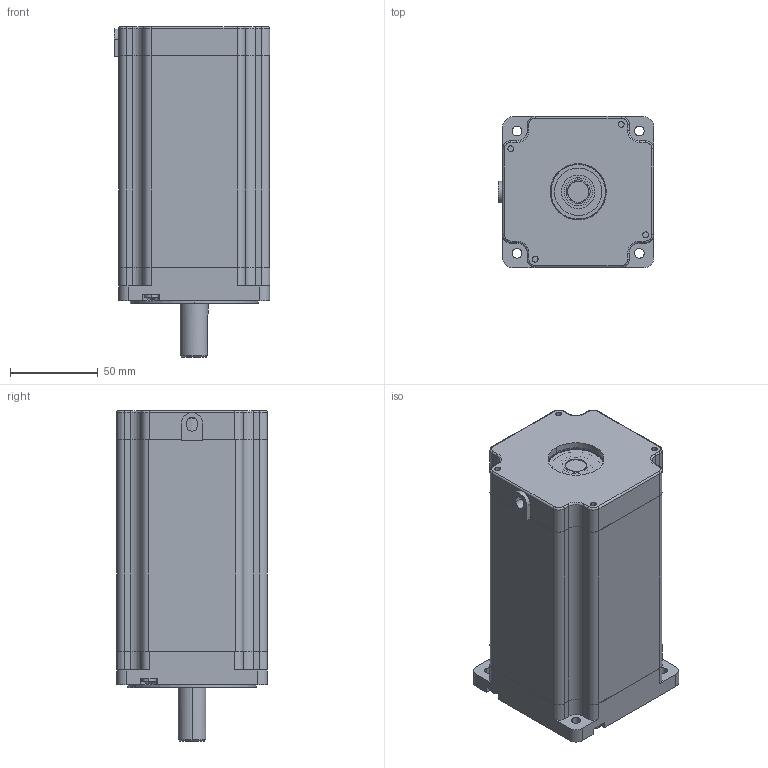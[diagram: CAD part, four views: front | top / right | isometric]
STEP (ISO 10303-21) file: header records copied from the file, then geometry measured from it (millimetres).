
FILE_DESCRIPTION (( 'STEP AP203' ), '1' );
FILE_NAME ('YK86HB156-06A.STEP', '2018-05-29T10:42:43', ( 'PC' ), ( '' ), 'SwSTEP 2.0', 'SolidWorks 2014', '' );
FILE_SCHEMA (( 'CONFIG_CONTROL_DESIGN' ));
Length unit declared in the file: millimetre
Products named in the file (11): M4.0蹟佪; 86隅赽; 86蛌赽; 86砎々菜; 粣創杶; 86ヶ裔; 粣創1; 86挡圈; YK86HB156-06A; 86綴裔; 粣創2
Assembly tree (13 placements, depth 2):
  YK86HB156-06A
    86隅赽
    86ヶ裔
    86綴裔
    86蛌赽
    粣創1
    粣創2
    86砎々菜
    86挡圈
    M4.0蹟佪  x4
    粣創杶
Bounding box: 88.4 x 85.9 x 188 mm (x, y, z)
Volume: 668115.7 mm3; surface area: 157641.5 mm2
Topology: 13 solids, 18 shells, 1542 faces, 4211 edges, 2766 vertices
Faces by surface type: plane 1281, cylinder 196, bspline 48, cone 17
Entity records: 48938 total; most frequent: CARTESIAN_POINT 10424, ORIENTED_EDGE 8022, DIRECTION 7229, EDGE_CURVE 4019, VECTOR 3491, LINE 3491, VERTEX_POINT 2667, AXIS2_PLACEMENT_3D 1869
